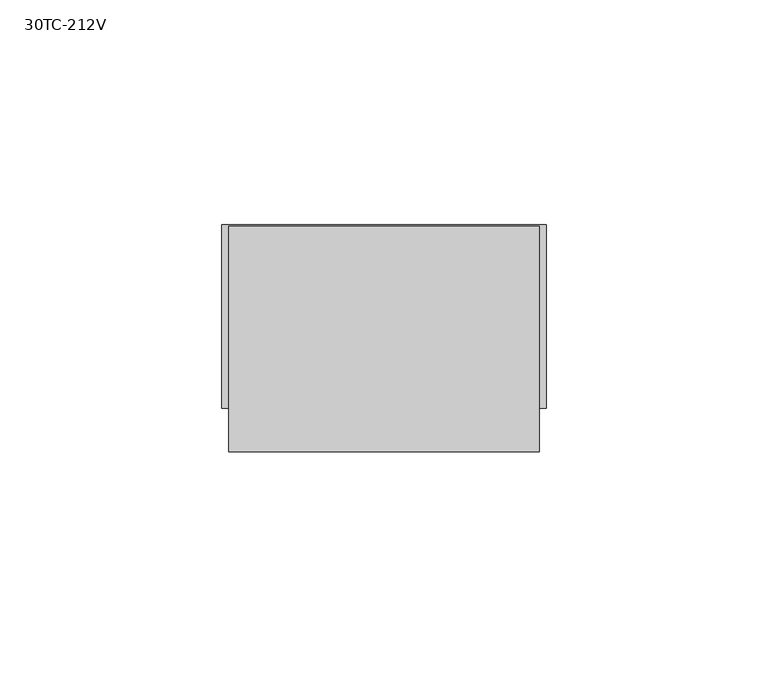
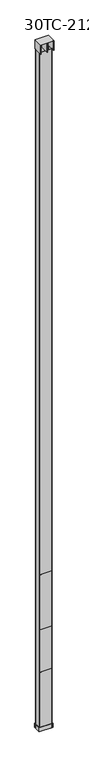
"""IFC4 building model written with IfcOpenShell, lengths in millimetres: proxy geometry, Vertical_Drop_Pole-Wiremold-Blank_Steel_Pole_Single_Compartment : 30TC-212V."""

from ifc_helpers import new_model, si_unit, point, frame, frame_2d, origin, origin_with_axes, place, context, project, spatial, polyline, circle_curve, trimmed, segment, composite_curve, outline, extrude, source, transform, mapped, element, save


def proxy_30tc_212v_eddba96f(model_context):
    return source(origin(), model_context, "Body", "SweptSolid", [
        extrude(outline(polyline([(30.9724052, -15.9657638), (-31.0275948, -15.9657638), (-31.0275948, -14.9657638), (30.9724052, -14.9657638), (30.9724052, -15.9657638)])), frame((0.0, 0.0, 567.3552083), z_axis=(0.0, 0.0, 1.0), x_axis=(1.0, 0.0, 0.0)), (0.0, 0.0, 1.0), 306.3875),
        extrude(outline(polyline([(30.9724052, -15.9657638), (-31.0275948, -15.9657638), (-31.0275948, -14.9657638), (30.9724052, -14.9657638), (30.9724052, -15.9657638)])), frame((0.0, 0.0, 23.8125), z_axis=(0.0, 0.0, 1.0), x_axis=(1.0, 0.0, 0.0)), (0.0, 0.0, 1.0), 306.3875),
        extrude(outline(polyline([(-0.8929688, -28.0704513), (-0.8929688, 22.7295487), (0.8929687, 22.7295487), (0.8929687, -28.0704513), (-0.8929688, -28.0704513)])), frame((0.0, 0.0, 3784.6), z_axis=(0.0, 0.0, 1.0), x_axis=(1.0, 0.0, 0.0)), (0.0, 0.0, 1.0), 50.8),
        extrude(outline(polyline([(-23.8969536, 21.1420487), (23.8969536, 21.1420487), (23.8969536, 19.5545487), (-23.8969536, 19.5545487), (-23.8969536, 21.1420487)])), frame((0.0, 0.0, 3757.6125), z_axis=(0.0, 0.0, 1.0), x_axis=(1.0, 0.0, 0.0)), (0.0, 0.0, 1.0), 26.9875),
        extrude(outline(polyline([(-33.3375, 22.7295487), (33.3375, 22.7295487), (33.3375, 21.1420487), (-33.3375, 21.1420487), (-33.3375, 22.7295487)])), frame((0.0, 0.0, 3784.6), z_axis=(0.0, 0.0, 1.0), x_axis=(1.0, 0.0, 0.0)), (0.0, 0.0, 1.0), 50.8),
        extrude(outline(polyline([(-34.925, -28.0704513), (-34.925, 22.7295487), (-33.3375, 22.7295487), (-33.3375, -28.0704513), (-34.925, -28.0704513)])), frame((0.0, 0.0, 3784.6), z_axis=(0.0, 0.0, 1.0), x_axis=(1.0, 0.0, 0.0)), (0.0, 0.0, 1.0), 50.8),
        extrude(outline(polyline([(33.3375, -28.0704513), (33.3375, 22.7295487), (34.925, 22.7295487), (34.925, -28.0704513), (33.3375, -28.0704513)])), frame((0.0, 0.0, 3784.6), z_axis=(0.0, 0.0, 1.0), x_axis=(1.0, 0.0, 0.0)), (0.0, 0.0, 1.0), 50.8),
        extrude(outline(polyline([(-34.925, -28.0704513), (-34.925, 22.7295487), (34.925, 22.7295487), (34.925, -28.0704513), (-34.925, -28.0704513)])), frame((0.0, 0.0, 3835.4), z_axis=(0.0, 0.0, 1.0), x_axis=(1.0, 0.0, 0.0)), (0.0, 0.0, 1.0), 1.5875),
        extrude(outline(composite_curve([segment(trimmed(circle_curve(frame_2d((30.925, 18.1342362)), 4.0), [point((30.925, 22.1342362))], [point((34.925, 18.1342362))], False, "CARTESIAN"), True, "CONTINUOUS"), segment(polyline([(34.925, 18.1342362), (34.925, -11.9657638)]), True, "CONTINUOUS"), segment(trimmed(circle_curve(frame_2d((30.925, -11.9657638)), 4.0), [point((34.925, -11.9657638))], [point((30.925, -15.9657638))], False, "CARTESIAN"), True, "CONTINUOUS"), segment(polyline([(30.925, -15.9657638), (-30.925, -15.9657638)]), True, "CONTINUOUS"), segment(trimmed(circle_curve(frame_2d((-30.925, -11.9657638)), 4.0), [point((-30.925, -15.9657638))], [point((-34.925, -11.9657638))], False, "CARTESIAN"), True, "CONTINUOUS"), segment(polyline([(-34.925, -11.9657638), (-34.925, 18.1342362)]), True, "CONTINUOUS"), segment(trimmed(circle_curve(frame_2d((-30.925, 18.1342362)), 4.0), [point((-34.925, 18.1342362))], [point((-30.925, 22.1342362))], False, "CARTESIAN"), True, "CONTINUOUS"), segment(polyline([(-30.925, 22.1342362), (30.925, 22.1342362)]), True, "CONTINUOUS")], self_intersect=False), holes=[composite_curve([segment(trimmed(circle_curve(frame_2d((-29.925, -10.9657638)), 4.0), [point((-33.925, -10.9657638))], [point((-29.925, -14.9657638))], True, "CARTESIAN"), True, "CONTINUOUS"), segment(polyline([(-29.925, -14.9657638), (29.925, -14.9657638)]), True, "CONTINUOUS"), segment(trimmed(circle_curve(frame_2d((29.925, -10.9657638)), 4.0), [point((29.925, -14.9657638))], [point((33.925, -10.9657638))], True, "CARTESIAN"), True, "CONTINUOUS"), segment(polyline([(33.925, -10.9657638), (33.925, 17.1342362)]), True, "CONTINUOUS"), segment(trimmed(circle_curve(frame_2d((29.925, 17.1342362)), 4.0), [point((33.925, 17.1342362))], [point((29.925, 21.1342362))], True, "CARTESIAN"), True, "CONTINUOUS"), segment(polyline([(29.925, 21.1342362), (-29.925, 21.1342362)]), True, "CONTINUOUS"), segment(trimmed(circle_curve(frame_2d((-29.925, 17.1342362)), 4.0), [point((-29.925, 21.1342362))], [point((-33.925, 17.1342362))], True, "CARTESIAN"), True, "CONTINUOUS"), segment(polyline([(-33.925, 17.1342362), (-33.925, -10.9657638)]), True, "CONTINUOUS")], self_intersect=False)]), origin_with_axes(), (0.0, 0.0, 1.0), 3784.6),
        extrude(outline(polyline([(-36.5125, 23.7217362), (36.5125, 23.7217362), (36.5125, -17.5532638), (-36.5125, -17.5532638), (-36.5125, 23.7217362)]), holes=[polyline([(34.925, 22.1342362), (-34.925, 22.1342362), (-34.925, -15.9657638), (34.925, -15.9657638), (34.925, 22.1342362)])]), origin_with_axes(), (0.0, 0.0, 1.0), 23.8125),
    ])


if __name__ == "__main__":
    model = new_model("IFC4")
    model_context = context("Model", 3, world=origin())
    ifc_project = project(units=[si_unit("LENGTHUNIT", "METRE", prefix="MILLI")], contexts=[model_context])
    site = spatial("IfcSite", under=ifc_project)
    building = spatial("IfcBuilding", under=site)
    placement = place(None, origin())
    proxy_30tc_212v_shape = proxy_30tc_212v_eddba96f(model_context)
    element("IfcBuildingElementProxy", 1, Name="Vertical_Drop_Pole-Wiremold-Blank_Steel_Pole_Single_Compartment : 30TC-212V", ObjectType="Vertical_Drop_Pole-Wiremold-Blank_Steel_Pole_Single_Compartment : 30TC-212V", at=placement, inside=building, context=model_context, shape_type="MappedRepresentation", body=[
        mapped(proxy_30tc_212v_shape, transform((0.0, 0.0, 0.0), x_axis=(1.0, 0.0, 0.0), y_axis=(0.0, 1.0, 0.0), z_axis=(0.0, 0.0, 1.0))),
    ])
    save(model, "model.ifc")
